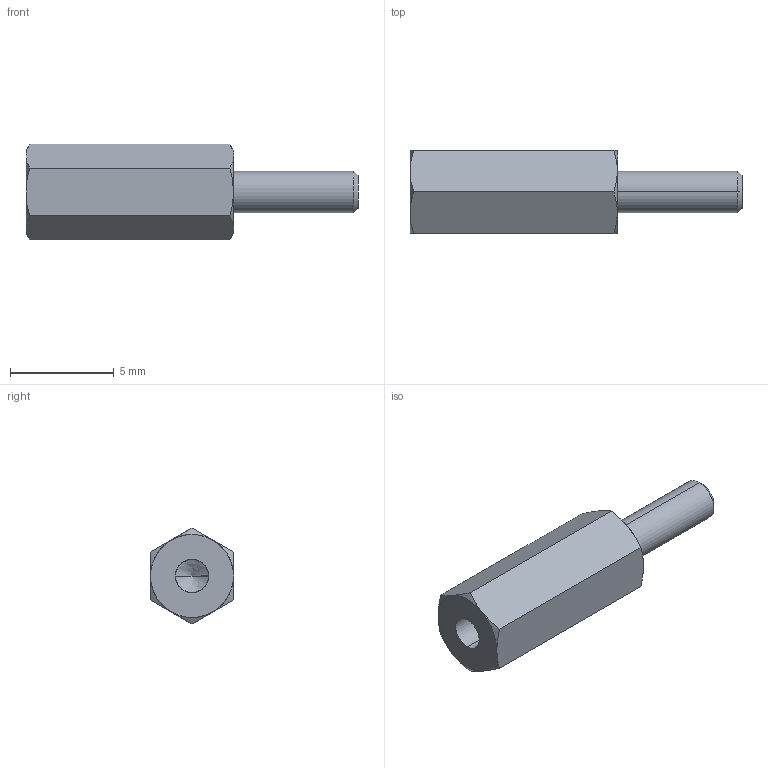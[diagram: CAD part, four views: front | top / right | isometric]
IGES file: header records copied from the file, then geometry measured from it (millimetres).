
Start section: SolidWorks IGES file using analytic representation for surfaces
Global section: file name: C:\Users\render1\Desktop\P0185_IGES\P0185.02-10.igs; native system: SolidWorks 2009; preprocessor: SolidWorks 2009; author: render1; date: 130627.111255; units: millimetre
Bounding box: 16 x 4 x 4.62 mm (x, y, z)
Surface area: 227.3 mm2 (no closed solid volume)
Topology: 0 solids, 0 shells, 29 faces, 292 edges, 290 vertices
Faces by surface type: revolution 20, bspline 9
